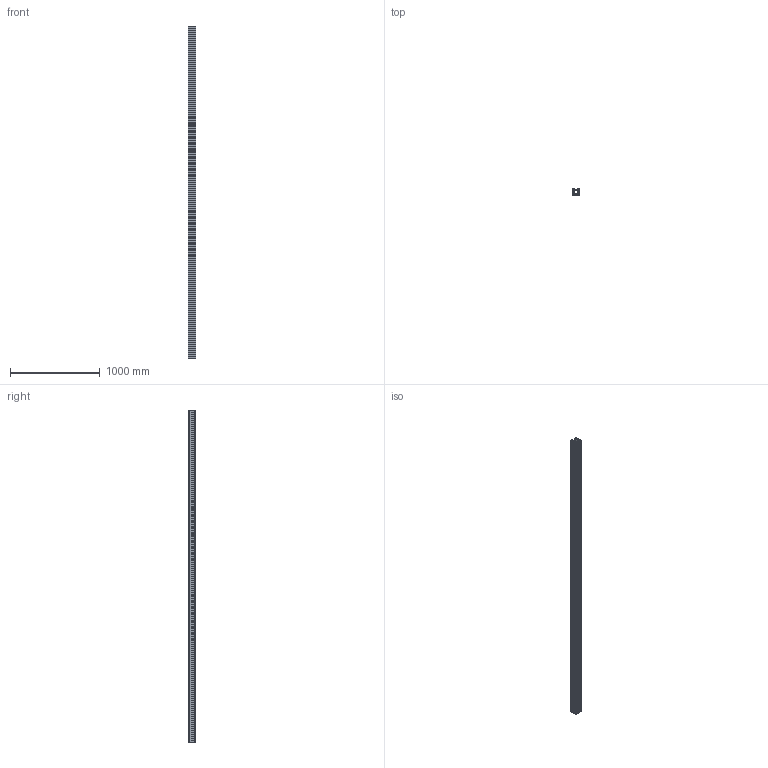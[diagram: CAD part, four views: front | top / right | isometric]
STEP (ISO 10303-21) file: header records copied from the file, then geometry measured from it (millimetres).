
FILE_DESCRIPTION (( 'STEP AP203' ), '1' );
FILE_NAME ('_-_MLF 4 3698 mm lang.step', '2005-09-01T12:46:56', ( ' ' ), ( ' ' ), 'SwSTEP 2.0', 'SolidWorks 2005187', '' );
FILE_SCHEMA (( 'CONFIG_CONTROL_DESIGN' ));
Length unit declared in the file: millimetre
Products named in the file (1): _-_MLF 4  3698 mm lang
Bounding box: 87.56 x 80 x 3698 mm (x, y, z)
Volume: 8520888.6 mm3; surface area: 4566732.6 mm2
Topology: 1 solids, 1 shells, 248 faces, 762 edges, 500 vertices
Faces by surface type: plane 174, cylinder 74
Entity records: 8575 total; most frequent: ORIENTED_EDGE 1524, CARTESIAN_POINT 1511, DIRECTION 1408, EDGE_CURVE 762, VECTOR 614, LINE 614, VERTEX_POINT 500, AXIS2_PLACEMENT_3D 397
